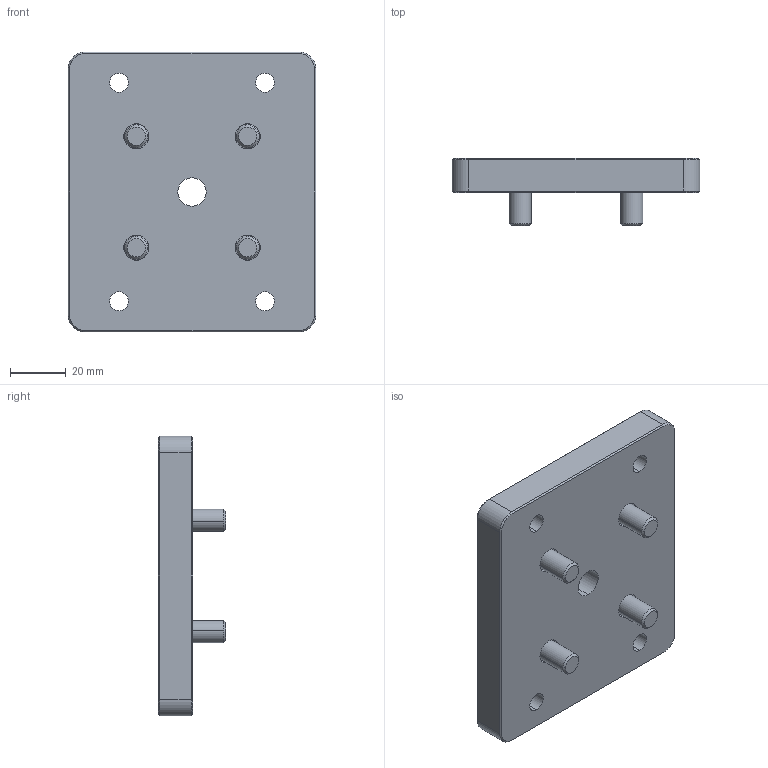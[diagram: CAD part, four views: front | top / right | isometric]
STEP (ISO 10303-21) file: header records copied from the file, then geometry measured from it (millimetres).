
FILE_DESCRIPTION (( 'STEP AP214' ), '1' );
FILE_NAME ('80x80 M12 Stem_HD Plate Caster Profile Mounting Kit C1 (40DCP-0401-010-02).STEP', '2025-06-11T18:24:28', ( '' ), ( '' ), 'SwSTEP 2.0', 'SolidWorks 2020', '' );
FILE_SCHEMA (( 'AUTOMOTIVE_DESIGN' ));
Length unit declared in the file: millimetre
Products named in the file (1): 80x80 M12 Stem_HD Plate Caster Profile Mounting Kit C1 (40DCP-0401-010-02)
Bounding box: 88.9 x 24.2 x 100.5 mm (x, y, z)
Volume: 107285.4 mm3; surface area: 28679.8 mm2
Topology: 5 solids, 5 shells, 182 faces, 402 edges, 234 vertices
Faces by surface type: plane 78, cone 50, cylinder 46, torus 8
Entity records: 5208 total; most frequent: DIRECTION 934, CARTESIAN_POINT 811, ORIENTED_EDGE 788, EDGE_CURVE 394, AXIS2_PLACEMENT_3D 357, VERTEX_POINT 234, LINE 220, VECTOR 220
